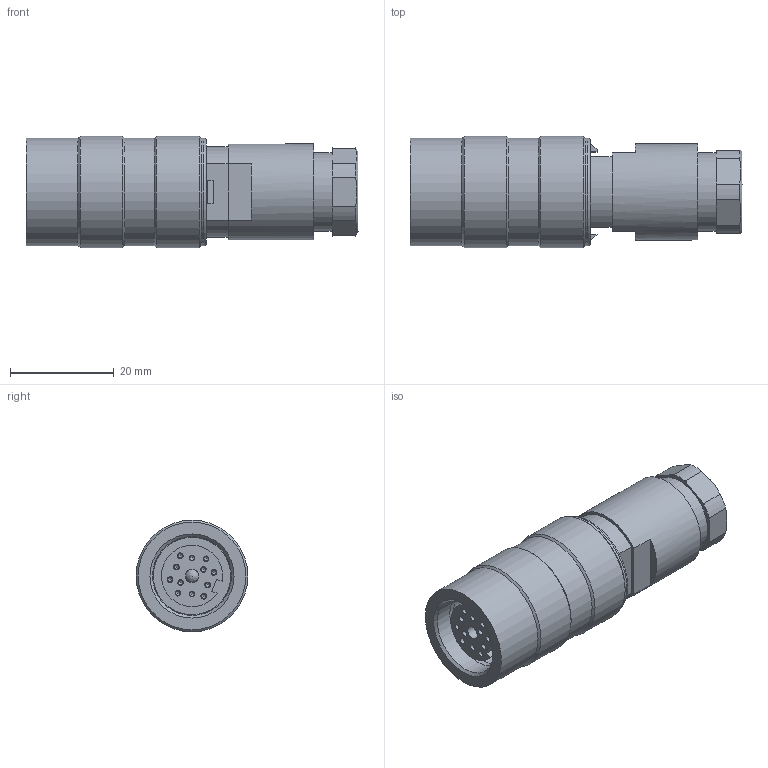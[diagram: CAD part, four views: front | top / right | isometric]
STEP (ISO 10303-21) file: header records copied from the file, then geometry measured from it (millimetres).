
FILE_DESCRIPTION(/* description */ (''),/* implementation_level */ '2;1');
FILE_NAME(/* name */ '09_0130_70_12_001_00.stp',/* time_stamp */ '2011-06-14T17:32:11+02:00',/* author */ (''),/* organization */ (''),/* preprocessor_version */ 'ST-DEVELOPER v11',/* originating_system */ 'UGS - NX 5.0',/* authorisation */ '');
FILE_SCHEMA (('CONFIG_CONTROL_DESIGN'));
Length unit declared in the file: millimetre
Products named in the file (1): kbor1061sbae
Bounding box: 63.9 x 21.5 x 21.5 mm (x, y, z)
Volume: 17981.7 mm3; surface area: 5929.9 mm2
Topology: 1 solids, 1 shells, 238 faces, 638 edges, 427 vertices
Faces by surface type: plane 112, cone 66, cylinder 34, torus 25, bspline 1
Full cylindrical faces by diameter (mm): 1.1 x12, 2.6 x1, 14.9 x1, 15.188 x1, 15.2 x1, 16 x1, 17.1 x1, 17.45 x1, 18.5 x1, 20.7 x3, 21.5 x2
Entity records: 7257 total; most frequent: CARTESIAN_POINT 1905, DIRECTION 1084, ORIENTED_EDGE 1030, EDGE_CURVE 515, AXIS2_PLACEMENT_3D 481, VERTEX_POINT 374, EDGE_LOOP 320, ADVANCED_FACE 238
